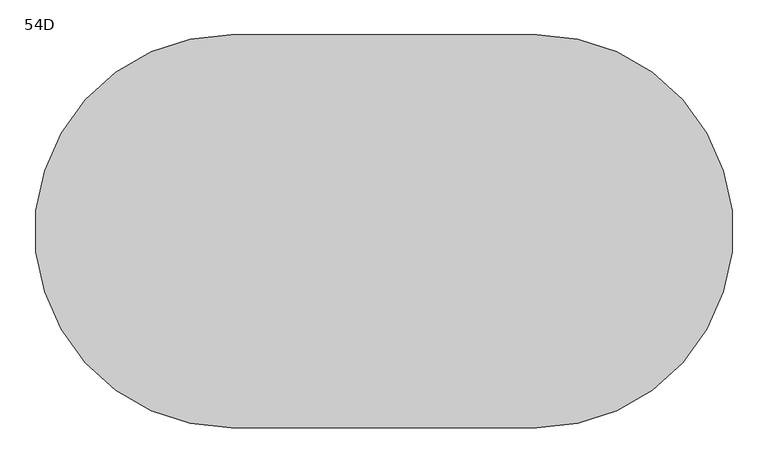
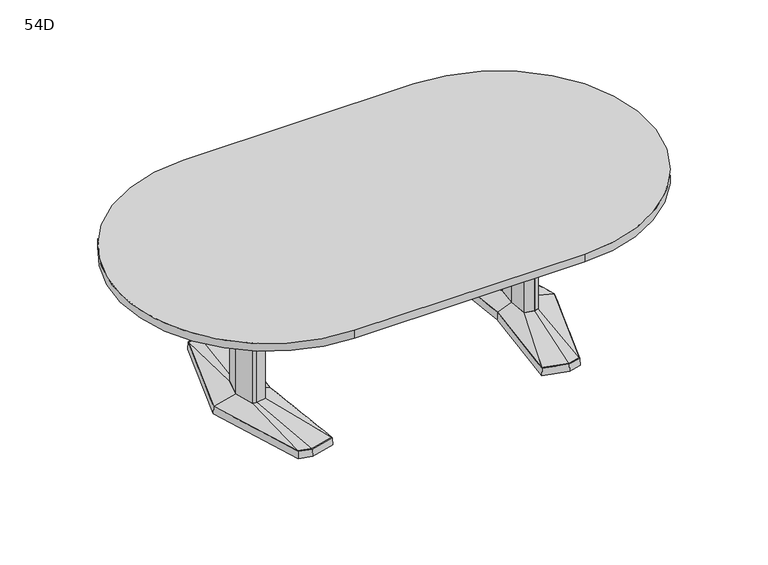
"""IFC4 building model written with IfcOpenShell, lengths in millimetres: furniture geometry, Coalesse_AM_Table_Conference_ETable2_Racetrack_96in_AluminiumBase : 54D."""

from ifc_helpers import new_model, si_unit, point, frame, frame_2d, origin, place, context, project, spatial, polyline, circle_curve, trimmed, segment, composite_curve, outline, extrude, faceted_brep, source, transform, mapped, element, save
from ifc_brep_helpers import plane_surface, spline_surface, advanced_brep


def furniture_54d_b8cd5568(model_context):
    return source(origin(), model_context, "Body", "SolidModel", [
        faceted_brep([(594.6806835, 455.5848221, 38.1), (485.1031277, 426.2263816, 38.1), (526.2663717, 0.0, 38.1), (485.1031277, -426.2263816, 38.1), (594.6806835, -455.5848221, 38.1), (650.8070396, -440.5478297, 38.1), (788.1184269, 0.0, 38.1), (650.8070396, 440.5478297, 38.1), (594.6806754, 457.2283104, 3.175), (652.0624472, 441.8549756, 3.175), (789.78125, 0.0, 3.175), (652.0624472, -441.8549756, 3.175), (594.6806754, -457.2283104, 3.175), (483.39375, -427.4118891, 3.175), (524.6714856, 0.0, 3.175), (483.39375, 427.4118891, 3.175), (598.270115, 428.3273875, 3.175), (493.2218228, 402.1057253, 3.175), (501.340518, 377.985069, 3.175), (601.8595466, 401.0699529, 3.175), (652.4191725, 387.524361, 3.175), (651.6131061, 414.0360954, 3.175), (598.270115, -428.3273875, 3.175), (651.6131061, -414.0360954, 3.175), (652.4191725, -387.524361, 3.175), (601.8595466, -401.0699529, 3.175), (501.340518, -377.985069, 3.175), (493.2218228, -402.1057253, 3.175), (724.8653621, 0.0, 3.175), (692.5959611, 120.4193755, 3.175), (643.9487222, 133.471665, 3.175), (564.0680526, 119.4176561, 3.175), (552.9368466, 0.0, 3.175), (564.0680526, -119.4176561, 3.175), (643.9487222, -133.471665, 3.175), (692.5959611, -120.4193755, 3.175), (598.270115, 428.3273875, 0.0), (651.6131061, 414.0360954, 0.0), (652.4191725, 387.524361, 0.0), (601.8595466, 401.0699529, 0.0), (501.340518, 377.985069, 0.0), (493.2218228, 402.1057253, 0.0), (598.270115, -428.3273875, 0.0), (493.2218228, -402.1057253, 0.0), (501.340518, -377.985069, 0.0), (601.8595466, -401.0699529, 0.0), (652.4191725, -387.524361, 0.0), (651.6131061, -414.0360954, 0.0), (724.8653621, 0.0, 0.0), (692.5959611, -120.4193755, 0.0), (643.9487222, -133.471665, 0.0), (564.0680526, -119.4176561, 0.0), (552.9368466, 0.0, 0.0), (564.0680526, 119.4176561, 0.0), (643.9487222, 133.471665, 0.0), (692.5959611, 120.4193755, 0.0)], [[[0, 1, 2, 3, 4, 5, 6, 7]], [[8, 9, 10, 11, 12, 13, 14, 15], [16, 17, 18, 19, 20, 21], [22, 23, 24, 25, 26, 27], [28, 29, 30, 31, 32, 33, 34, 35]], [[7, 9, 8, 0]], [[6, 10, 9, 7]], [[5, 11, 10, 6]], [[4, 12, 11, 5]], [[3, 13, 12, 4]], [[2, 14, 13, 3]], [[1, 15, 14, 2]], [[0, 8, 15, 1]], [[36, 37, 38, 39, 40, 41]], [[42, 43, 44, 45, 46, 47]], [[48, 49, 50, 51, 52, 53, 54, 55]], [[36, 16, 21, 37]], [[37, 21, 20, 38]], [[38, 20, 19, 39]], [[39, 19, 18, 40]], [[40, 18, 17, 41]], [[41, 17, 16, 36]], [[42, 22, 27, 43]], [[43, 27, 26, 44]], [[44, 26, 25, 45]], [[45, 25, 24, 46]], [[46, 24, 23, 47]], [[47, 23, 22, 42]], [[48, 28, 35, 49]], [[49, 35, 34, 50]], [[50, 34, 33, 51]], [[51, 33, 32, 52]], [[52, 32, 31, 53]], [[53, 31, 30, 54]], [[54, 30, 29, 55]], [[55, 29, 28, 48]]]),
        faceted_brep([(685.4210836, 0.0, 698.5), (661.4858546, 89.3188359, 698.5), (644.6324984, 93.8406728, 698.5), (642.2326511, 94.4845635, 698.5), (599.305146, 86.9320037, 698.5), (591.2020056, 0.0, 698.5), (599.305146, -86.9320037, 698.5), (642.2326511, -94.4845635, 698.5), (644.6324984, -93.8406728, 698.5), (661.4858546, -89.3188359, 698.5), (685.4210836, 0.0, 63.5), (661.4858546, -89.3188359, 63.5), (644.6324984, -93.8406728, 63.5), (642.2326511, -94.4845635, 63.5), (599.305146, -86.9320037, 63.5), (591.2020056, 0.0, 63.5), (599.305146, 86.9320037, 63.5), (642.2326511, 94.4845635, 63.5), (644.6324984, 93.8406728, 63.5), (661.4858546, 89.3188359, 63.5)], [[[0, 1, 2, 3, 4, 5, 6, 7, 8, 9]], [[10, 11, 12, 13, 14, 15, 16, 17, 18, 19]], [[9, 11, 10, 0]], [[8, 12, 11, 9]], [[7, 13, 12, 8]], [[6, 14, 13, 7]], [[5, 15, 14, 6]], [[4, 16, 15, 5]], [[3, 17, 16, 4]], [[2, 18, 17, 3]], [[1, 19, 18, 2]], [[0, 10, 19, 1]]]),
        advanced_brep(
        [(642.2326511, 94.4845635, 63.5), (599.305146, 86.9320037, 63.5), (591.2020056, 0.0, 63.5), (599.305146, -86.9320037, 63.5), (642.2326511, -94.4845635, 63.5), (661.4858546, -89.3188359, 63.5), (685.4210836, 0.0, 63.5), (661.4858546, 89.3188359, 63.5), (594.6806835, 455.5848221, 38.1), (650.8070396, 440.5478297, 38.1), (788.1184269, 0.0, 38.1), (650.8070396, -440.5478297, 38.1), (594.6806835, -455.5848221, 38.1), (485.1031277, -426.2263816, 38.1), (526.2663717, 0.0, 38.1), (485.1031277, 426.2263816, 38.1)],
        [
            (0, 1),
            (1, 2),
            (2, 3),
            (3, 4),
            (4, 5),
            (5, 6),
            (6, 7),
            (7, 0),
            (8, 9),
            (9, 10),
            (10, 11),
            (11, 12),
            (12, 13),
            (13, 14),
            (14, 15),
            (15, 8),
            (8, 0),
            (7, 9),
            (6, 10),
            (5, 11),
            (4, 12),
            (3, 13),
            (2, 14),
            (1, 15),
        ],
        [
            plane_surface(frame((635.3337991, 0.0, 63.5), z_axis=(0.0, 0.0, 1.0), x_axis=(-0.25884244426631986, -0.9659195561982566, 0.0))),
            plane_surface(frame((596.9458125, 0.0, 38.1), z_axis=(0.0, 0.0, -1.0), x_axis=(-0.25884244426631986, -0.9659195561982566, 0.0))),
            spline_surface(1, 1, [[(594.6806835, 455.5848221, 38.1), (650.8070396, 440.5478297, 38.1)], [(642.2326511, 94.4845635, 63.5), (661.4858546, 89.3188359, 63.5)]], [2, 2], [2, 2], [0.0, 1.0], [0.0, 1.0]),
            spline_surface(1, 1, [[(650.8070396, 440.5478297, 38.1), (788.1184269, 0.0, 38.1)], [(661.4858546, 89.3188359, 63.5), (685.4210836, 0.0, 63.5)]], [2, 2], [2, 2], [0.0, 1.0], [0.0, 1.0]),
            spline_surface(1, 1, [[(788.1184269, 0.0, 38.1), (650.8070396, -440.5478297, 38.1)], [(685.4210836, 0.0, 63.5), (661.4858546, -89.3188359, 63.5)]], [2, 2], [2, 2], [0.0, 1.0], [0.0, 1.0]),
            spline_surface(1, 1, [[(650.8070396, -440.5478297, 38.1), (594.6806835, -455.5848221, 38.1)], [(661.4858546, -89.3188359, 63.5), (642.2326511, -94.4845635, 63.5)]], [2, 2], [2, 2], [0.0, 1.0], [0.0, 1.0]),
            spline_surface(1, 1, [[(594.6806835, -455.5848221, 38.1), (485.1031277, -426.2263816, 38.1)], [(642.2326511, -94.4845635, 63.5), (599.305146, -86.9320037, 63.5)]], [2, 2], [2, 2], [0.0, 1.0], [0.0, 1.0]),
            spline_surface(1, 1, [[(485.1031277, -426.2263816, 38.1), (526.2663717, 0.0, 38.1)], [(599.305146, -86.9320037, 63.5), (591.2020056, 0.0, 63.5)]], [2, 2], [2, 2], [0.0, 1.0], [0.0, 1.0]),
            spline_surface(1, 1, [[(526.2663717, 0.0, 38.1), (485.1031277, 426.2263816, 38.1)], [(591.2020056, 0.0, 63.5), (599.305146, 86.9320037, 63.5)]], [2, 2], [2, 2], [0.0, 1.0], [0.0, 1.0]),
            spline_surface(1, 1, [[(485.1031277, 426.2263816, 38.1), (594.6806835, 455.5848221, 38.1)], [(599.305146, 86.9320037, 63.5), (642.2326511, 94.4845635, 63.5)]], [2, 2], [2, 2], [0.0, 1.0], [0.0, 1.0]),
        ],
        [
            (0, [[1, 2, 3, 4, 5, 6, 7, 8]]),
            (1, [[9, 10, 11, 12, 13, 14, 15, 16]]),
            (2, [[17, -8, 18, -9]]),
            (3, [[-18, -7, 19, -10]]),
            (4, [[-19, -6, 20, -11]]),
            (5, [[-20, -5, 21, -12]]),
            (6, [[-21, -4, 22, -13]]),
            (7, [[-22, -3, 23, -14]]),
            (8, [[-23, -2, 24, -15]]),
            (9, [[-24, -1, -17, -16]]),
        ],
    ),
        faceted_brep([(-594.6806835, 455.5848221, 38.1), (-650.8070396, 440.5478297, 38.1), (-788.1184269, 0.0, 38.1), (-650.8070396, -440.5478297, 38.1), (-594.6806835, -455.5848221, 38.1), (-485.1031277, -426.2263816, 38.1), (-526.2663717, 0.0, 38.1), (-485.1031277, 426.2263816, 38.1), (-594.6806754, 457.2283104, 3.175), (-483.39375, 427.4118891, 3.175), (-524.6714856, 0.0, 3.175), (-483.39375, -427.4118891, 3.175), (-594.6806754, -457.2283104, 3.175), (-652.0624472, -441.8549756, 3.175), (-789.78125, 0.0, 3.175), (-652.0624472, 441.8549756, 3.175), (-598.270115, 428.3273875, 3.175), (-651.6131061, 414.0360954, 3.175), (-652.4191725, 387.524361, 3.175), (-601.8595466, 401.0699529, 3.175), (-501.340518, 377.985069, 3.175), (-493.2218228, 402.1057253, 3.175), (-598.270115, -428.3273875, 3.175), (-493.2218228, -402.1057253, 3.175), (-501.340518, -377.985069, 3.175), (-601.8595466, -401.0699529, 3.175), (-652.4191725, -387.524361, 3.175), (-651.6131061, -414.0360954, 3.175), (-724.8653621, 0.0, 3.175), (-692.5959611, -120.4193755, 3.175), (-643.9487222, -133.471665, 3.175), (-564.0680526, -119.4176561, 3.175), (-552.9368466, 0.0, 3.175), (-564.0680526, 119.4176561, 3.175), (-643.9487222, 133.471665, 3.175), (-692.5959611, 120.4193755, 3.175), (-598.270115, 428.3273875, 0.0), (-493.2218228, 402.1057253, 0.0), (-501.340518, 377.985069, 0.0), (-601.8595466, 401.0699529, 0.0), (-652.4191725, 387.524361, 0.0), (-651.6131061, 414.0360954, 0.0), (-598.270115, -428.3273875, 0.0), (-651.6131061, -414.0360954, 0.0), (-652.4191725, -387.524361, 0.0), (-601.8595466, -401.0699529, 0.0), (-501.340518, -377.985069, 0.0), (-493.2218228, -402.1057253, 0.0), (-724.8653621, 0.0, 0.0), (-692.5959611, 120.4193755, 0.0), (-643.9487222, 133.471665, 0.0), (-564.0680526, 119.4176561, 0.0), (-552.9368466, 0.0, 0.0), (-564.0680526, -119.4176561, 0.0), (-643.9487222, -133.471665, 0.0), (-692.5959611, -120.4193755, 0.0)], [[[0, 1, 2, 3, 4, 5, 6, 7]], [[8, 9, 10, 11, 12, 13, 14, 15], [16, 17, 18, 19, 20, 21], [22, 23, 24, 25, 26, 27], [28, 29, 30, 31, 32, 33, 34, 35]], [[1, 0, 8, 15]], [[2, 1, 15, 14]], [[3, 2, 14, 13]], [[4, 3, 13, 12]], [[5, 4, 12, 11]], [[6, 5, 11, 10]], [[7, 6, 10, 9]], [[0, 7, 9, 8]], [[36, 37, 38, 39, 40, 41]], [[42, 43, 44, 45, 46, 47]], [[48, 49, 50, 51, 52, 53, 54, 55]], [[36, 41, 17, 16]], [[41, 40, 18, 17]], [[40, 39, 19, 18]], [[39, 38, 20, 19]], [[38, 37, 21, 20]], [[37, 36, 16, 21]], [[42, 47, 23, 22]], [[47, 46, 24, 23]], [[46, 45, 25, 24]], [[45, 44, 26, 25]], [[44, 43, 27, 26]], [[43, 42, 22, 27]], [[48, 55, 29, 28]], [[55, 54, 30, 29]], [[54, 53, 31, 30]], [[53, 52, 32, 31]], [[52, 51, 33, 32]], [[51, 50, 34, 33]], [[50, 49, 35, 34]], [[49, 48, 28, 35]]]),
        faceted_brep([(-685.4210836, 0.0, 698.5), (-661.4858546, -89.3188359, 698.5), (-644.6324984, -93.8406728, 698.5), (-642.2326511, -94.4845635, 698.5), (-599.305146, -86.9320037, 698.5), (-591.2020056, 0.0, 698.5), (-599.305146, 86.9320037, 698.5), (-642.2326511, 94.4845635, 698.5), (-644.6324984, 93.8406728, 698.5), (-661.4858546, 89.3188359, 698.5), (-685.4210836, 0.0, 63.5), (-661.4858546, 89.3188359, 63.5), (-644.6324984, 93.8406728, 63.5), (-642.2326511, 94.4845635, 63.5), (-599.305146, 86.9320037, 63.5), (-591.2020056, 0.0, 63.5), (-599.305146, -86.9320037, 63.5), (-642.2326511, -94.4845635, 63.5), (-644.6324984, -93.8406728, 63.5), (-661.4858546, -89.3188359, 63.5)], [[[0, 1, 2, 3, 4, 5, 6, 7, 8, 9]], [[10, 11, 12, 13, 14, 15, 16, 17, 18, 19]], [[1, 0, 10, 19]], [[2, 1, 19, 18]], [[3, 2, 18, 17]], [[4, 3, 17, 16]], [[5, 4, 16, 15]], [[6, 5, 15, 14]], [[7, 6, 14, 13]], [[8, 7, 13, 12]], [[9, 8, 12, 11]], [[0, 9, 11, 10]]]),
        advanced_brep(
        [(-642.2326511, 94.4845635, 63.5), (-661.4858546, 89.3188359, 63.5), (-685.4210836, 0.0, 63.5), (-661.4858546, -89.3188359, 63.5), (-642.2326511, -94.4845635, 63.5), (-599.305146, -86.9320037, 63.5), (-591.2020056, 0.0, 63.5), (-599.305146, 86.9320037, 63.5), (-594.6806835, 455.5848221, 38.1), (-485.1031277, 426.2263816, 38.1), (-526.2663717, 0.0, 38.1), (-485.1031277, -426.2263816, 38.1), (-594.6806835, -455.5848221, 38.1), (-650.8070396, -440.5478297, 38.1), (-788.1184269, 0.0, 38.1), (-650.8070396, 440.5478297, 38.1)],
        [
            (0, 1),
            (1, 2),
            (2, 3),
            (3, 4),
            (4, 5),
            (5, 6),
            (6, 7),
            (7, 0),
            (8, 9),
            (9, 10),
            (10, 11),
            (11, 12),
            (12, 13),
            (13, 14),
            (14, 15),
            (15, 8),
            (15, 1),
            (0, 8),
            (14, 2),
            (13, 3),
            (12, 4),
            (11, 5),
            (10, 6),
            (9, 7),
        ],
        [
            plane_surface(frame((-635.3337991, 0.0, 63.5), z_axis=(0.0, 0.0, 1.0), x_axis=(0.25884244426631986, -0.9659195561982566, 0.0))),
            plane_surface(frame((-596.9458125, 0.0, 38.1), z_axis=(0.0, 0.0, -1.0), x_axis=(0.25884244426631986, -0.9659195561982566, 0.0))),
            spline_surface(1, 1, [[(-594.6806835, 455.5848221, 38.1), (-642.2326511, 94.4845635, 63.5)], [(-650.8070396, 440.5478297, 38.1), (-661.4858546, 89.3188359, 63.5)]], [2, 2], [2, 2], [0.0, 1.0], [0.0, 1.0]),
            spline_surface(1, 1, [[(-650.8070396, 440.5478297, 38.1), (-661.4858546, 89.3188359, 63.5)], [(-788.1184269, 0.0, 38.1), (-685.4210836, 0.0, 63.5)]], [2, 2], [2, 2], [0.0, 1.0], [0.0, 1.0]),
            spline_surface(1, 1, [[(-788.1184269, 0.0, 38.1), (-685.4210836, 0.0, 63.5)], [(-650.8070396, -440.5478297, 38.1), (-661.4858546, -89.3188359, 63.5)]], [2, 2], [2, 2], [0.0, 1.0], [0.0, 1.0]),
            spline_surface(1, 1, [[(-650.8070396, -440.5478297, 38.1), (-661.4858546, -89.3188359, 63.5)], [(-594.6806835, -455.5848221, 38.1), (-642.2326511, -94.4845635, 63.5)]], [2, 2], [2, 2], [0.0, 1.0], [0.0, 1.0]),
            spline_surface(1, 1, [[(-594.6806835, -455.5848221, 38.1), (-642.2326511, -94.4845635, 63.5)], [(-485.1031277, -426.2263816, 38.1), (-599.305146, -86.9320037, 63.5)]], [2, 2], [2, 2], [0.0, 1.0], [0.0, 1.0]),
            spline_surface(1, 1, [[(-485.1031277, -426.2263816, 38.1), (-599.305146, -86.9320037, 63.5)], [(-526.2663717, 0.0, 38.1), (-591.2020056, 0.0, 63.5)]], [2, 2], [2, 2], [0.0, 1.0], [0.0, 1.0]),
            spline_surface(1, 1, [[(-526.2663717, 0.0, 38.1), (-591.2020056, 0.0, 63.5)], [(-485.1031277, 426.2263816, 38.1), (-599.305146, 86.9320037, 63.5)]], [2, 2], [2, 2], [0.0, 1.0], [0.0, 1.0]),
            spline_surface(1, 1, [[(-485.1031277, 426.2263816, 38.1), (-599.305146, 86.9320037, 63.5)], [(-594.6806835, 455.5848221, 38.1), (-642.2326511, 94.4845635, 63.5)]], [2, 2], [2, 2], [0.0, 1.0], [0.0, 1.0]),
        ],
        [
            (0, [[1, 2, 3, 4, 5, 6, 7, 8]]),
            (1, [[9, 10, 11, 12, 13, 14, 15, 16]]),
            (2, [[-16, 17, -1, 18]]),
            (3, [[-15, 19, -2, -17]]),
            (4, [[-14, 20, -3, -19]]),
            (5, [[-13, 21, -4, -20]]),
            (6, [[-12, 22, -5, -21]]),
            (7, [[-11, 23, -6, -22]]),
            (8, [[-10, 24, -7, -23]]),
            (9, [[-9, -18, -8, -24]]),
        ],
    ),
        extrude(outline(polyline([(96.8375, 698.5), (103.1875, 698.5), (103.1875, 476.25), (-103.1875, 476.25), (-103.1875, 698.5), (-96.8375, 698.5), (-96.8375, 482.6), (96.8375, 482.6), (96.8375, 698.5)])), frame((-597.9364207, 0.0, 0.0), z_axis=(1.0, 0.0, 0.0), x_axis=(0.0, 1.0, 0.0)), (0.0, 0.0, 1.0), 1195.8728415),
        extrude(outline(composite_curve([segment(trimmed(circle_curve(frame_2d((533.4, 0.0)), 685.8), [point((533.4, 685.8))], [point((533.4, -685.8))], False, "CARTESIAN"), True, "CONTINUOUS"), segment(polyline([(533.4, -685.8), (-533.4, -685.8)]), True, "CONTINUOUS"), segment(trimmed(circle_curve(frame_2d((-533.4, 0.0)), 685.8), [point((-533.4, -685.8))], [point((-533.4, 685.8))], False, "CARTESIAN"), True, "CONTINUOUS"), segment(polyline([(-533.4, 685.8), (533.4, 685.8)]), True, "CONTINUOUS")], self_intersect=False)), frame((0.0, 0.0, 698.5), z_axis=(0.0, 0.0, 1.0), x_axis=(1.0, 0.0, 0.0)), (0.0, 0.0, 1.0), 38.1),
    ])


if __name__ == "__main__":
    model = new_model("IFC4")
    model_context = context("Model", 3, world=origin())
    ifc_project = project(units=[si_unit("LENGTHUNIT", "METRE", prefix="MILLI")], contexts=[model_context])
    site = spatial("IfcSite", under=ifc_project)
    building = spatial("IfcBuilding", under=site)
    placement = place(None, origin())
    furniture_54d_shape = furniture_54d_b8cd5568(model_context)
    element("IfcFurniture", 1, ObjectType="Coalesse_AM_Table_Conference_ETable2_Racetrack_96in_AluminiumBase : 54D", at=placement, inside=building, context=model_context, shape_type="MappedRepresentation", body=[
        mapped(furniture_54d_shape, transform((0.0, 0.0, 0.0), x_axis=(1.0, 0.0, 0.0), y_axis=(0.0, 1.0, 0.0), z_axis=(0.0, 0.0, 1.0))),
    ])
    save(model, "model.ifc")
